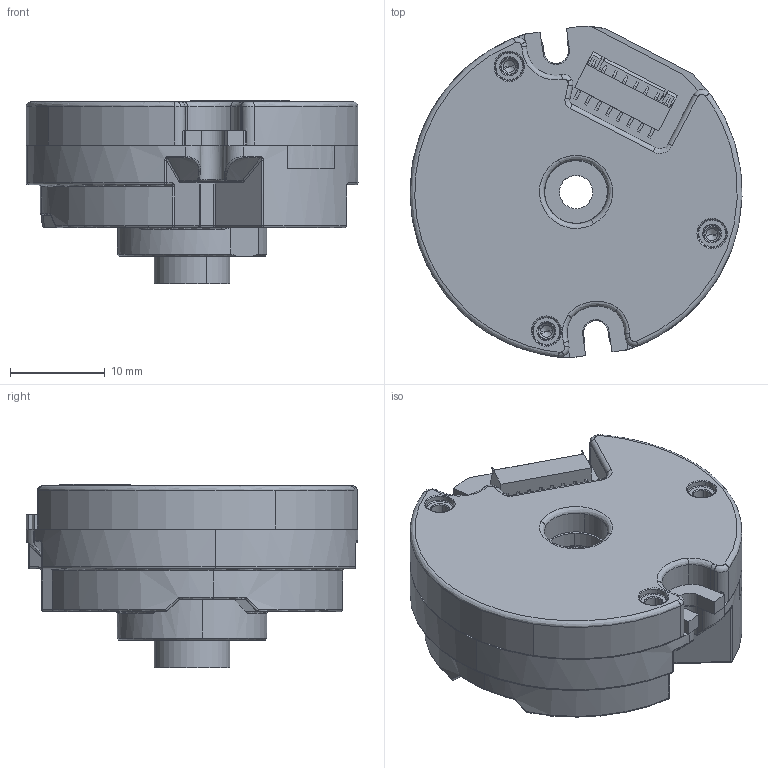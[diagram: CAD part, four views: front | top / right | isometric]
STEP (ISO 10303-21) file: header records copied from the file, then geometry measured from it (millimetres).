
FILE_DESCRIPTION (( 'STEP AP214' ), '1' );
FILE_NAME ('35E06-SC.STEP', '2025-01-10T02:19:56', ( 'Windows 蚚誧' ), ( '' ), 'SwSTEP 2.0', 'SolidWorks 2021', '' );
FILE_SCHEMA (( 'AUTOMOTIVE_DESIGN' ));
Length unit declared in the file: millimetre
Products named in the file (1): 35E06-SC
Bounding box: 34.99 x 34.98 x 19.3 mm (x, y, z)
Volume: 9378.4 mm3; surface area: 9174.1 mm2
Topology: 9 solids, 9 shells, 983 faces, 2630 edges, 1665 vertices
Faces by surface type: plane 447, cylinder 321, bspline 108, torus 46, cone 44, sphere 17
Entity records: 44927 total; most frequent: CARTESIAN_POINT 9818, ORIENTED_EDGE 5176, DIRECTION 4928, EDGE_CURVE 2588, AXIS2_PLACEMENT_3D 1715, VERTEX_POINT 1657, VECTOR 1498, LINE 1498
